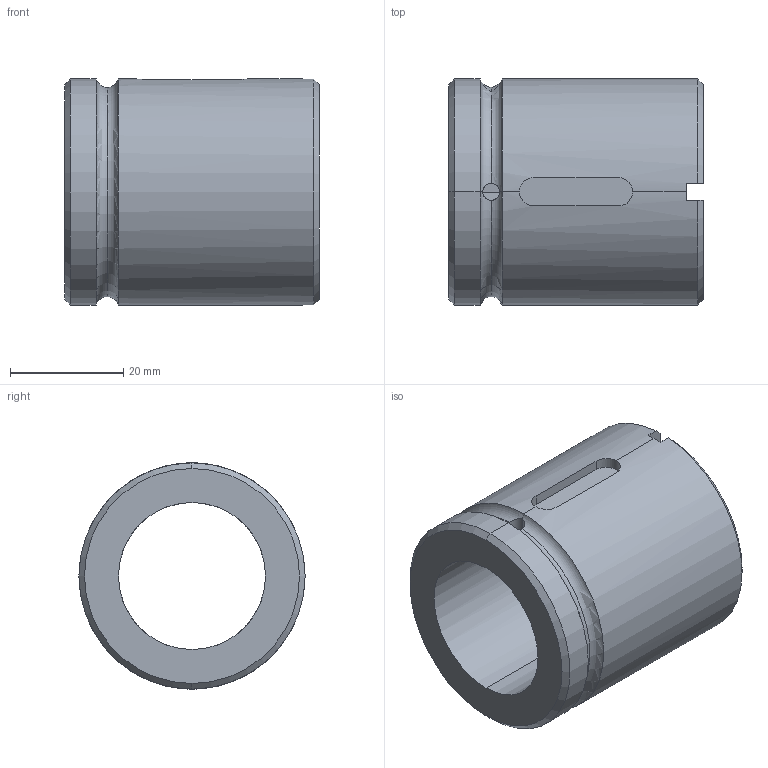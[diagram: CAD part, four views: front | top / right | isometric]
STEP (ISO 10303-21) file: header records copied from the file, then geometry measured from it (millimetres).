
FILE_DESCRIPTION (( 'STEP AP214' ), '1' );
FILE_NAME ('KGM-D 2510.STEP', '2021-01-19T01:18:35', ( 'user' ), ( 'datathink' ), 'SwSTEP 2.0', 'SolidWorks 2013', '' );
FILE_SCHEMA (( 'AUTOMOTIVE_DESIGN' ));
Length unit declared in the file: millimetre
Products named in the file (1): KGM-D 2510
Bounding box: 45 x 40 x 40 mm (x, y, z)
Volume: 31661.5 mm3; surface area: 10951.1 mm2
Topology: 1 solids, 1 shells, 31 faces, 84 edges, 52 vertices
Faces by surface type: plane 12, cylinder 11, torus 4, cone 4
Entity records: 1169 total; most frequent: CARTESIAN_POINT 348, ORIENTED_EDGE 168, DIRECTION 167, EDGE_CURVE 84, AXIS2_PLACEMENT_3D 65, VERTEX_POINT 52, LINE 37, VECTOR 37
